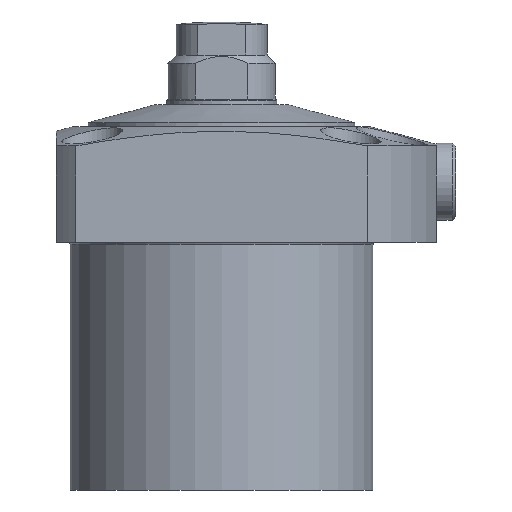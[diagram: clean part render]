
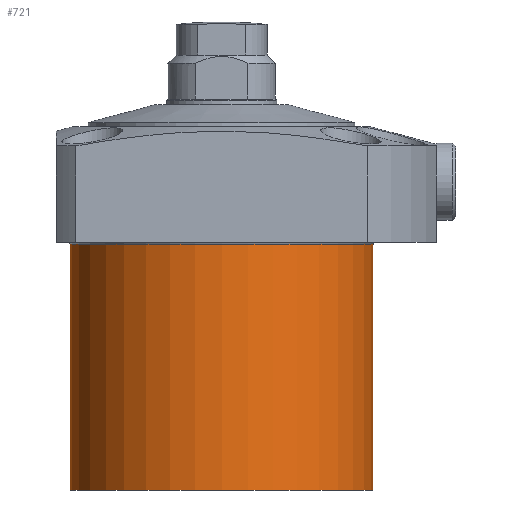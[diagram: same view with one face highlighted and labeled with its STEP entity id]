
A CAD part, front view. The second image highlights one B-rep face of the part: STEP entity #721.
In plain terms, the highlighted cylindrical face has radius 27.5 mm (diameter 55 mm), a partial arc.
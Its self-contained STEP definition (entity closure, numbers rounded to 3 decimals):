
#721=ADVANCED_FACE('',(#890),#834,.T.);
#834=CYLINDRICAL_SURFACE('',#2508,27.5);
#890=FACE_OUTER_BOUND('',#998,.T.);
#998=EDGE_LOOP('',(#1477,#1478,#1479,#1480));
#1154=LINE('',#3686,#1278);
#1155=LINE('',#3688,#1279);
#1278=VECTOR('',#2842,1.);
#1279=VECTOR('',#2845,1.);
#1477=ORIENTED_EDGE('',*,*,#2150,.F.);
#1478=ORIENTED_EDGE('',*,*,#2164,.T.);
#1479=ORIENTED_EDGE('',*,*,#2152,.T.);
#1480=ORIENTED_EDGE('',*,*,#2124,.T.);
#1953=VERTEX_POINT('',#3548);
#1954=VERTEX_POINT('',#3549);
#1971=VERTEX_POINT('',#3684);
#1972=VERTEX_POINT('',#3685);
#2124=EDGE_CURVE('',#1953,#1954,#2344,.T.);
#2150=EDGE_CURVE('',#1972,#1954,#1154,.T.);
#2152=EDGE_CURVE('',#1971,#1953,#1155,.T.);
#2164=EDGE_CURVE('',#1972,#1971,#2361,.T.);
#2344=CIRCLE('',#2481,27.5);
#2361=CIRCLE('',#2506,27.5);
#2481=AXIS2_PLACEMENT_3D('',#3547,#2804,#2805);
#2506=AXIS2_PLACEMENT_3D('',#3714,#2870,#2871);
#2508=AXIS2_PLACEMENT_3D('',#3716,#2874,#2875);
#2804=DIRECTION('',(0.,0.,-1.));
#2805=DIRECTION('',(-1.,0.,0.));
#2842=DIRECTION('',(0.,0.,1.));
#2845=DIRECTION('',(0.,0.,1.));
#2870=DIRECTION('',(0.,0.,1.));
#2871=DIRECTION('',(1.,0.,0.));
#2874=DIRECTION('',(0.,0.,1.));
#2875=DIRECTION('',(-1.,0.,0.));
#3547=CARTESIAN_POINT('',(0.,0.,-0.4));
#3548=CARTESIAN_POINT('',(27.5,0.,-0.4));
#3549=CARTESIAN_POINT('',(-27.5,0.,-0.4));
#3684=CARTESIAN_POINT('',(27.5,0.,-45.));
#3685=CARTESIAN_POINT('',(-27.5,0.,-45.));
#3686=CARTESIAN_POINT('',(-27.5,0.,35.));
#3688=CARTESIAN_POINT('',(27.5,0.,35.));
#3714=CARTESIAN_POINT('',(0.,0.,-45.));
#3716=CARTESIAN_POINT('',(0.,0.,35.));
